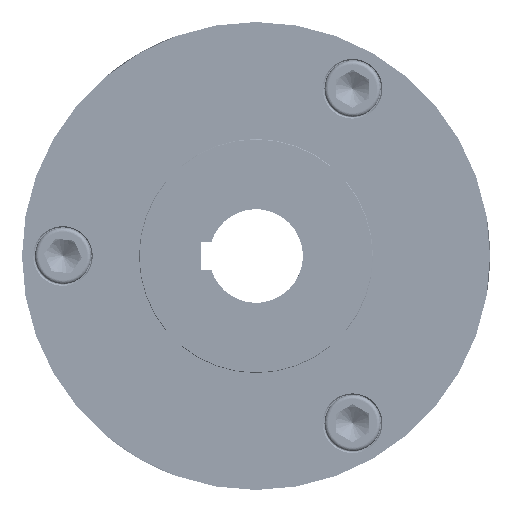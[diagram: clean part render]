
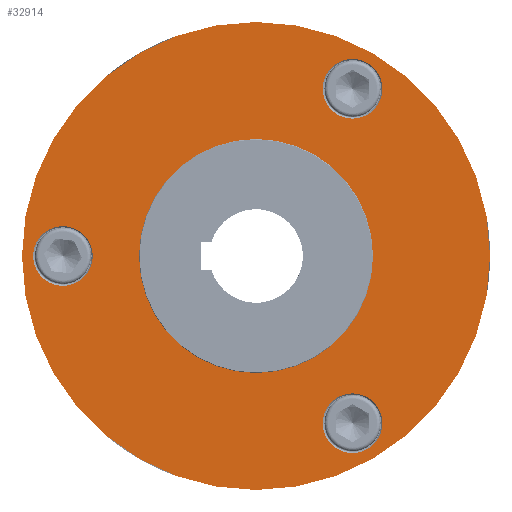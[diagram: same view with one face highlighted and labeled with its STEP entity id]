
A CAD part, left-side view. The second image highlights one B-rep face of the part: STEP entity #32914.
In plain terms, the highlighted planar face has unit normal (-1, 0, 0).
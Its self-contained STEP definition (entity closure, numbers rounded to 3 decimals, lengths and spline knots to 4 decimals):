
#852=FACE_BOUND('',#6614,.T.);
#853=FACE_BOUND('',#6615,.T.);
#854=FACE_BOUND('',#6616,.T.);
#855=FACE_BOUND('',#6617,.T.);
#1588=PLANE('',#34726);
#4908=FACE_OUTER_BOUND('',#6613,.T.);
#6613=EDGE_LOOP('',(#21205));
#6614=EDGE_LOOP('',(#21206));
#6615=EDGE_LOOP('',(#21207));
#6616=EDGE_LOOP('',(#21208));
#6617=EDGE_LOOP('',(#21209));
#8666=CIRCLE('',#34723,0.502);
#8669=CIRCLE('',#34727,3.937);
#8670=CIRCLE('',#34728,0.502);
#8671=CIRCLE('',#34729,1.9685);
#8672=CIRCLE('',#34730,0.502);
#12445=VERTEX_POINT('',#49661);
#12448=VERTEX_POINT('',#49669);
#12449=VERTEX_POINT('',#49671);
#12450=VERTEX_POINT('',#49673);
#12451=VERTEX_POINT('',#49675);
#15944=EDGE_CURVE('',#12445,#12445,#8666,.T.);
#15948=EDGE_CURVE('',#12448,#12448,#8669,.T.);
#15949=EDGE_CURVE('',#12449,#12449,#8670,.T.);
#15950=EDGE_CURVE('',#12450,#12450,#8671,.T.);
#15951=EDGE_CURVE('',#12451,#12451,#8672,.T.);
#21205=ORIENTED_EDGE('',*,*,#15948,.F.);
#21206=ORIENTED_EDGE('',*,*,#15949,.F.);
#21207=ORIENTED_EDGE('',*,*,#15950,.F.);
#21208=ORIENTED_EDGE('',*,*,#15951,.F.);
#21209=ORIENTED_EDGE('',*,*,#15944,.F.);
#32914=ADVANCED_FACE('',(#4908,#852,#853,#854,#855),#1588,.F.);
#34723=AXIS2_PLACEMENT_3D('',#49662,#39216,#39217);
#34726=AXIS2_PLACEMENT_3D('',#49668,#39223,#39224);
#34727=AXIS2_PLACEMENT_3D('',#49670,#39225,#39226);
#34728=AXIS2_PLACEMENT_3D('',#49672,#39227,#39228);
#34729=AXIS2_PLACEMENT_3D('',#49674,#39229,#39230);
#34730=AXIS2_PLACEMENT_3D('',#49676,#39231,#39232);
#39216=DIRECTION('center_axis',(-1.,0.,0.));
#39217=DIRECTION('ref_axis',(0.,0.5,-0.866));
#39223=DIRECTION('center_axis',(1.,0.,0.));
#39224=DIRECTION('ref_axis',(0.,-1.,0.));
#39225=DIRECTION('center_axis',(1.,0.,0.));
#39226=DIRECTION('ref_axis',(0.,-1.,0.));
#39227=DIRECTION('center_axis',(-1.,0.,0.));
#39228=DIRECTION('ref_axis',(0.,0.5,0.866));
#39229=DIRECTION('center_axis',(-1.,0.,0.));
#39230=DIRECTION('ref_axis',(0.,0.,
-1.));
#39231=DIRECTION('center_axis',(-1.,0.,0.));
#39232=DIRECTION('ref_axis',(0.,-1.,0.));
#49661=CARTESIAN_POINT('',(-8.189,-1.875,3.2476));
#49662=CARTESIAN_POINT('Origin',(-8.189,-1.624,2.8129));
#49668=CARTESIAN_POINT('Origin',(-8.189,0.,
0.));
#49669=CARTESIAN_POINT('',(-8.189,0.,-3.937));
#49670=CARTESIAN_POINT('Origin',(-8.189,0.,
0.));
#49671=CARTESIAN_POINT('',(-8.189,-1.875,-3.2476));
#49672=CARTESIAN_POINT('Origin',(-8.189,-1.624,-2.8129));
#49673=CARTESIAN_POINT('',(-8.189,0.,1.9685));
#49674=CARTESIAN_POINT('Origin',(-8.189,0.,
0.));
#49675=CARTESIAN_POINT('',(-8.189,3.75,0.));
#49676=CARTESIAN_POINT('Origin',(-8.189,3.248,0.));
